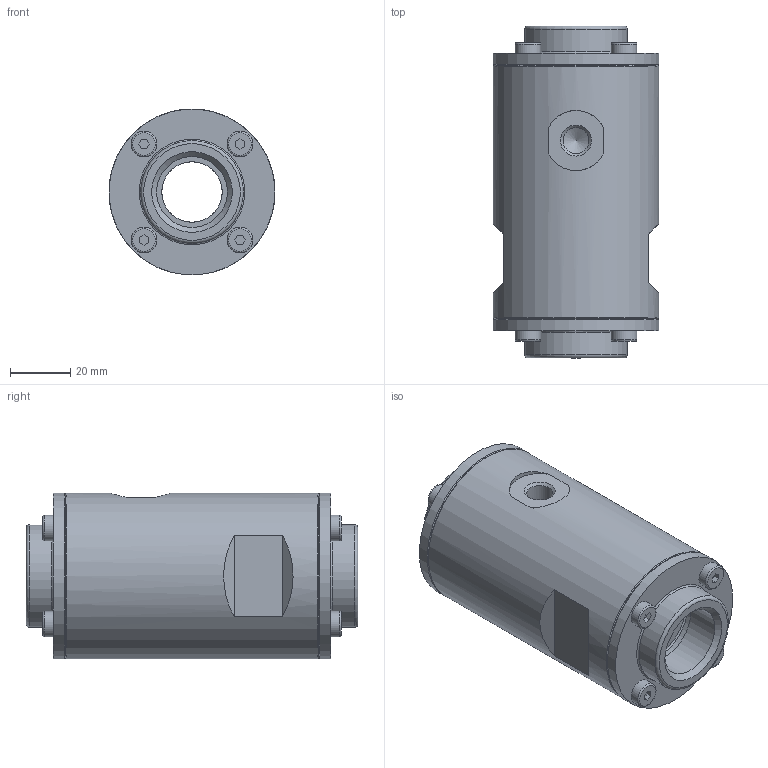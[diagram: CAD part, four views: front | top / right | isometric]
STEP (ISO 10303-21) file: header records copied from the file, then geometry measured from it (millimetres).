
FILE_DESCRIPTION(/* description */ (''),/* implementation_level */ '2;1');
FILE_NAME(/* name */ 'Serie70_QV20_assembly_VEREINFACHT.stp',/* time_stamp */ '2013-10-05T10:01:35+02:00',/* author */ (''),/* organization */ (''),/* preprocessor_version */ 'ST-DEVELOPER v11',/* originating_system */ 'SIEMENS PLM Software NX 7.5',/* authorisation */ '');
FILE_SCHEMA (('AUTOMOTIVE_DESIGN { 1 0 10303 214 1 1 1 1 }'));
Length unit declared in the file: millimetre
Products named in the file (1): memd369C6jom
Bounding box: 55 x 110 x 55 mm (x, y, z)
Volume: 192771.6 mm3; surface area: 53351.4 mm2
Topology: 27 solids, 27 shells, 292 faces, 592 edges, 386 vertices
Faces by surface type: plane 139, cylinder 91, torus 34, cone 28
Full cylindrical faces by diameter (mm): 4.13 x16, 4.2 x8, 5 x24, 5.2 x8, 5.4 x8, 8.5 x8, 8.611 x1, 20 x3, 23.416 x2, 27.9 x2, 34 x2, 50.8 x2, 51 x2, 55 x3
Entity records: 6697 total; most frequent: DIRECTION 1202, CARTESIAN_POINT 1034, ORIENTED_EDGE 762, AXIS2_PLACEMENT_3D 524, EDGE_LOOP 514, FACE_BOUND 435, EDGE_CURVE 381, VERTEX_POINT 336
